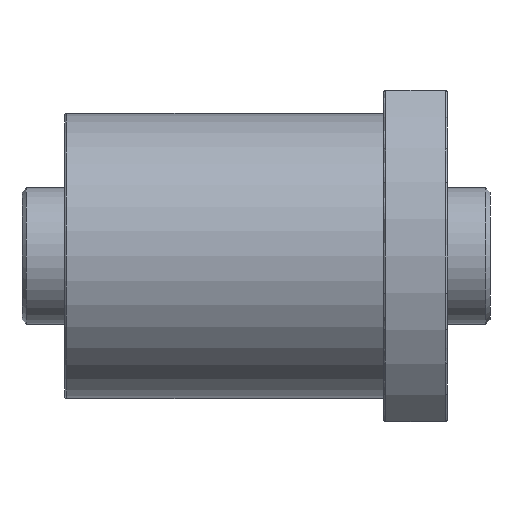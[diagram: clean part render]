
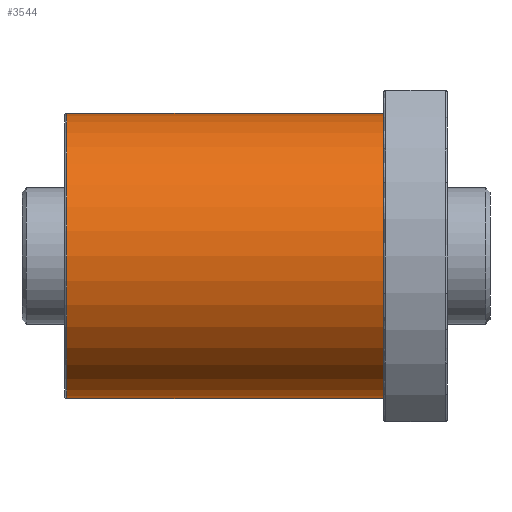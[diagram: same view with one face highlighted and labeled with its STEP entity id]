
A CAD part, front view. The second image highlights one B-rep face of the part: STEP entity #3544.
In plain terms, the highlighted cylindrical face has radius 33.5 mm (diameter 67 mm), a partial arc.
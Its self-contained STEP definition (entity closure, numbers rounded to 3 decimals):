
#95 = CARTESIAN_POINT ( 'NONE',  ( 0., 0., 0. ) ) ;
#108 = ORIENTED_EDGE ( 'NONE', *, *, #1690, .T. ) ;
#145 = EDGE_LOOP ( 'NONE', ( #3422, #612, #345, #108 ) ) ;
#220 = DIRECTION ( 'NONE',  ( 0., 0., -1. ) ) ;
#345 = ORIENTED_EDGE ( 'NONE', *, *, #2243, .T. ) ;
#462 = VERTEX_POINT ( 'NONE', #3313 ) ;
#508 = EDGE_CURVE ( 'NONE', #462, #3719, #2948, .T. ) ;
#612 = ORIENTED_EDGE ( 'NONE', *, *, #1267, .T. ) ;
#764 = CARTESIAN_POINT ( 'NONE',  ( -75., 0., -33.5 ) ) ;
#839 = VECTOR ( 'NONE', #1673, 1000. ) ;
#885 = CYLINDRICAL_SURFACE ( 'NONE', #3486, 33.5 ) ;
#909 = VECTOR ( 'NONE', #1207, 1000. ) ;
#1207 = DIRECTION ( 'NONE',  ( 1., 0., 0. ) ) ;
#1267 = EDGE_CURVE ( 'NONE', #462, #1764, #2023, .T. ) ;
#1275 = AXIS2_PLACEMENT_3D ( 'NONE', #2560, #2269, #2586 ) ;
#1324 = DIRECTION ( 'NONE',  ( -1., 0., 0. ) ) ;
#1673 = DIRECTION ( 'NONE',  ( 1., 0., 0. ) ) ;
#1690 = EDGE_CURVE ( 'NONE', #3964, #3719, #3735, .T. ) ;
#1764 = VERTEX_POINT ( 'NONE', #2628 ) ;
#1802 = AXIS2_PLACEMENT_3D ( 'NONE', #95, #1324, #2255 ) ;
#2023 = CIRCLE ( 'NONE', #1275, 33.5 ) ;
#2116 = CARTESIAN_POINT ( 'NONE',  ( -75., 0., 33.5 ) ) ;
#2243 = EDGE_CURVE ( 'NONE', #1764, #3964, #2543, .T. ) ;
#2255 = DIRECTION ( 'NONE',  ( 0., 0., -1. ) ) ;
#2269 = DIRECTION ( 'NONE',  ( 1., 0., 0. ) ) ;
#2543 = LINE ( 'NONE', #764, #839 ) ;
#2560 = CARTESIAN_POINT ( 'NONE',  ( -74.5, 0., 0. ) ) ;
#2586 = DIRECTION ( 'NONE',  ( 0., 0., 1. ) ) ;
#2628 = CARTESIAN_POINT ( 'NONE',  ( -74.5, 0., -33.5 ) ) ;
#2948 = LINE ( 'NONE', #2116, #909 ) ;
#3253 = FACE_OUTER_BOUND ( 'NONE', #145, .T. ) ;
#3310 = DIRECTION ( 'NONE',  ( 1., 0., 0. ) ) ;
#3313 = CARTESIAN_POINT ( 'NONE',  ( -74.5, 0., 33.5 ) ) ;
#3422 = ORIENTED_EDGE ( 'NONE', *, *, #508, .F. ) ;
#3486 = AXIS2_PLACEMENT_3D ( 'NONE', #3901, #3310, #220 ) ;
#3544 = ADVANCED_FACE ( 'NONE', ( #3253 ), #885, .T. ) ;
#3679 = CARTESIAN_POINT ( 'NONE',  ( 0., 0., 33.5 ) ) ;
#3719 = VERTEX_POINT ( 'NONE', #3679 ) ;
#3735 = CIRCLE ( 'NONE', #1802, 33.5 ) ;
#3827 = CARTESIAN_POINT ( 'NONE',  ( 0., 0., -33.5 ) ) ;
#3901 = CARTESIAN_POINT ( 'NONE',  ( -75., 0., 0. ) ) ;
#3964 = VERTEX_POINT ( 'NONE', #3827 ) ;
